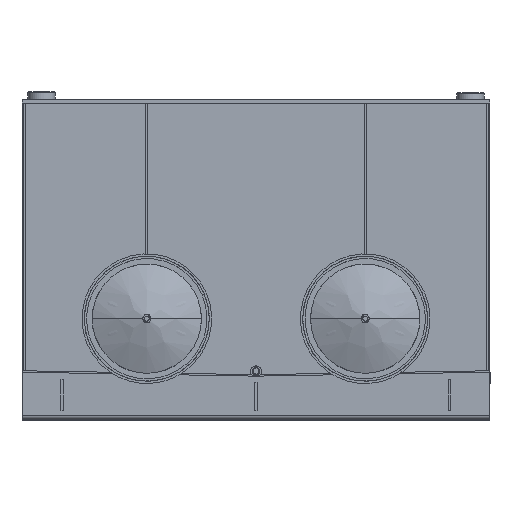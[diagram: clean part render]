
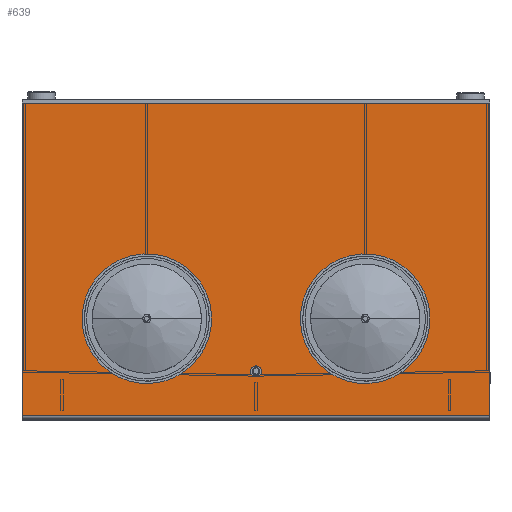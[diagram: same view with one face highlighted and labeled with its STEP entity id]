
A CAD part, top view. The second image highlights one B-rep face of the part: STEP entity #639.
In plain terms, the highlighted planar face has unit normal (0, 0, 1) as drawn and (-1, 0, 0) by its records, which use the part's own axes.
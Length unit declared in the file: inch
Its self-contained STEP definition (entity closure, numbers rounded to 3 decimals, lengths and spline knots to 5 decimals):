
#163 = LINE ( 'NONE', #2633, #7151 ) ;
#261 = DIRECTION ( 'NONE',  ( -1., 0., 0. ) ) ;
#458 = EDGE_CURVE ( 'NONE', #510, #5896, #7069, .T. ) ;
#510 = VERTEX_POINT ( 'NONE', #3900 ) ;
#530 = ORIENTED_EDGE ( 'NONE', *, *, #1686, .F. ) ;
#605 = CIRCLE ( 'NONE', #7297, 7. ) ;
#635 = ORIENTED_EDGE ( 'NONE', *, *, #7268, .T. ) ;
#639 = ADVANCED_FACE ( 'NONE', ( #5882, #5296, #2122, #1464 ), #5384, .F. ) ;
#701 = CARTESIAN_POINT ( 'NONE',  ( -0.375, 0.125, 0. ) ) ;
#913 = LINE ( 'NONE', #3409, #1073 ) ;
#1073 = VECTOR ( 'NONE', #4795, 39.37008 ) ;
#1228 = EDGE_LOOP ( 'NONE', ( #530, #2351 ) ) ;
#1426 = CARTESIAN_POINT ( 'NONE',  ( -0.375, 12.5, 51. ) ) ;
#1431 = EDGE_CURVE ( 'NONE', #6662, #5537, #163, .T. ) ;
#1448 = DIRECTION ( 'NONE',  ( -1., 0., 0. ) ) ;
#1464 = FACE_OUTER_BOUND ( 'NONE', #5321, .T. ) ;
#1494 = CARTESIAN_POINT ( 'NONE',  ( -0.375, 0.125, 60. ) ) ;
#1672 = VECTOR ( 'NONE', #8042, 39.37008 ) ;
#1686 = EDGE_CURVE ( 'NONE', #3172, #3011, #6243, .T. ) ;
#1767 = CARTESIAN_POINT ( 'NONE',  ( -0.375, 40.12, 0. ) ) ;
#1931 = AXIS2_PLACEMENT_3D ( 'NONE', #5007, #7552, #7596 ) ;
#2041 = ORIENTED_EDGE ( 'NONE', *, *, #3025, .T. ) ;
#2122 = FACE_BOUND ( 'NONE', #1228, .T. ) ;
#2141 = ORIENTED_EDGE ( 'NONE', *, *, #2293, .F. ) ;
#2160 = DIRECTION ( 'NONE',  ( 0., 0., -1. ) ) ;
#2293 = EDGE_CURVE ( 'NONE', #6605, #2571, #605, .T. ) ;
#2351 = ORIENTED_EDGE ( 'NONE', *, *, #5984, .F. ) ;
#2463 = DIRECTION ( 'NONE',  ( -1., 0., 0. ) ) ;
#2545 = CARTESIAN_POINT ( 'NONE',  ( -0.375, 12.5, 44. ) ) ;
#2571 = VERTEX_POINT ( 'NONE', #4317 ) ;
#2591 = CARTESIAN_POINT ( 'NONE',  ( -0.375, 12.5, 23. ) ) ;
#2633 = CARTESIAN_POINT ( 'NONE',  ( -0.375, 0.125, 60. ) ) ;
#2652 = VERTEX_POINT ( 'NONE', #1767 ) ;
#2679 = DIRECTION ( 'NONE',  ( 0., 0., -1. ) ) ;
#3011 = VERTEX_POINT ( 'NONE', #3568 ) ;
#3025 = EDGE_CURVE ( 'NONE', #2652, #5537, #4228, .T. ) ;
#3032 = AXIS2_PLACEMENT_3D ( 'NONE', #6044, #4917, #6907 ) ;
#3160 = CIRCLE ( 'NONE', #6056, 7. ) ;
#3172 = VERTEX_POINT ( 'NONE', #1426 ) ;
#3260 = CARTESIAN_POINT ( 'NONE',  ( -0.375, 12.5, 16. ) ) ;
#3409 = CARTESIAN_POINT ( 'NONE',  ( -0.375, 40.12, 60. ) ) ;
#3568 = CARTESIAN_POINT ( 'NONE',  ( -0.375, 12.5, 37. ) ) ;
#3900 = CARTESIAN_POINT ( 'NONE',  ( -0.375, 5.75, 30.72 ) ) ;
#3998 = DIRECTION ( 'NONE',  ( 0., -1., 0. ) ) ;
#4045 = AXIS2_PLACEMENT_3D ( 'NONE', #4097, #4750, #2160 ) ;
#4097 = CARTESIAN_POINT ( 'NONE',  ( -0.375, 0., 60. ) ) ;
#4227 = CIRCLE ( 'NONE', #6613, 7. ) ;
#4228 = LINE ( 'NONE', #4343, #1672 ) ;
#4286 = EDGE_LOOP ( 'NONE', ( #2141, #7263 ) ) ;
#4317 = CARTESIAN_POINT ( 'NONE',  ( -0.375, 12.5, 9. ) ) ;
#4343 = CARTESIAN_POINT ( 'NONE',  ( -0.375, 0., 0. ) ) ;
#4524 = CARTESIAN_POINT ( 'NONE',  ( -0.375, 0., 60. ) ) ;
#4699 = VECTOR ( 'NONE', #3998, 39.37008 ) ;
#4747 = EDGE_CURVE ( 'NONE', #8047, #6662, #5900, .T. ) ;
#4750 = DIRECTION ( 'NONE',  ( 1., 0., 0. ) ) ;
#4795 = DIRECTION ( 'NONE',  ( 0., 0., -1. ) ) ;
#4917 = DIRECTION ( 'NONE',  ( -1., 0., 0. ) ) ;
#5007 = CARTESIAN_POINT ( 'NONE',  ( -0.375, 5.75, 30. ) ) ;
#5296 = FACE_BOUND ( 'NONE', #4286, .T. ) ;
#5321 = EDGE_LOOP ( 'NONE', ( #2041, #6229, #5834, #635 ) ) ;
#5384 = PLANE ( 'NONE',  #4045 ) ;
#5522 = EDGE_CURVE ( 'NONE', #5896, #510, #6607, .T. ) ;
#5537 = VERTEX_POINT ( 'NONE', #701 ) ;
#5739 = DIRECTION ( 'NONE',  ( 0., 0., 1. ) ) ;
#5834 = ORIENTED_EDGE ( 'NONE', *, *, #4747, .F. ) ;
#5882 = FACE_BOUND ( 'NONE', #6168, .T. ) ;
#5896 = VERTEX_POINT ( 'NONE', #7228 ) ;
#5900 = LINE ( 'NONE', #4524, #4699 ) ;
#5984 = EDGE_CURVE ( 'NONE', #3011, #3172, #4227, .T. ) ;
#6044 = CARTESIAN_POINT ( 'NONE',  ( -0.375, 5.75, 30. ) ) ;
#6056 = AXIS2_PLACEMENT_3D ( 'NONE', #6773, #2463, #6154 ) ;
#6154 = DIRECTION ( 'NONE',  ( 0., 0., 1. ) ) ;
#6168 = EDGE_LOOP ( 'NONE', ( #7196, #7571 ) ) ;
#6229 = ORIENTED_EDGE ( 'NONE', *, *, #1431, .F. ) ;
#6243 = CIRCLE ( 'NONE', #6894, 7. ) ;
#6366 = DIRECTION ( 'NONE',  ( 0., 0., 1. ) ) ;
#6605 = VERTEX_POINT ( 'NONE', #2591 ) ;
#6607 = CIRCLE ( 'NONE', #3032, 0.72 ) ;
#6613 = AXIS2_PLACEMENT_3D ( 'NONE', #7037, #261, #7169 ) ;
#6662 = VERTEX_POINT ( 'NONE', #1494 ) ;
#6773 = CARTESIAN_POINT ( 'NONE',  ( -0.375, 12.5, 16. ) ) ;
#6852 = EDGE_CURVE ( 'NONE', #2571, #6605, #3160, .T. ) ;
#6894 = AXIS2_PLACEMENT_3D ( 'NONE', #2545, #1448, #6366 ) ;
#6907 = DIRECTION ( 'NONE',  ( 0., 0., 1. ) ) ;
#7037 = CARTESIAN_POINT ( 'NONE',  ( -0.375, 12.5, 44. ) ) ;
#7069 = CIRCLE ( 'NONE', #1931, 0.72 ) ;
#7151 = VECTOR ( 'NONE', #2679, 39.37008 ) ;
#7169 = DIRECTION ( 'NONE',  ( 0., 0., 1. ) ) ;
#7196 = ORIENTED_EDGE ( 'NONE', *, *, #458, .F. ) ;
#7228 = CARTESIAN_POINT ( 'NONE',  ( -0.375, 5.75, 29.28 ) ) ;
#7263 = ORIENTED_EDGE ( 'NONE', *, *, #6852, .F. ) ;
#7268 = EDGE_CURVE ( 'NONE', #8047, #2652, #913, .T. ) ;
#7297 = AXIS2_PLACEMENT_3D ( 'NONE', #3260, #7783, #5739 ) ;
#7552 = DIRECTION ( 'NONE',  ( -1., 0., 0. ) ) ;
#7571 = ORIENTED_EDGE ( 'NONE', *, *, #5522, .F. ) ;
#7596 = DIRECTION ( 'NONE',  ( 0., 0., 1. ) ) ;
#7649 = CARTESIAN_POINT ( 'NONE',  ( -0.375, 40.12, 60. ) ) ;
#7783 = DIRECTION ( 'NONE',  ( -1., 0., 0. ) ) ;
#8042 = DIRECTION ( 'NONE',  ( 0., -1., 0. ) ) ;
#8047 = VERTEX_POINT ( 'NONE', #7649 ) ;
